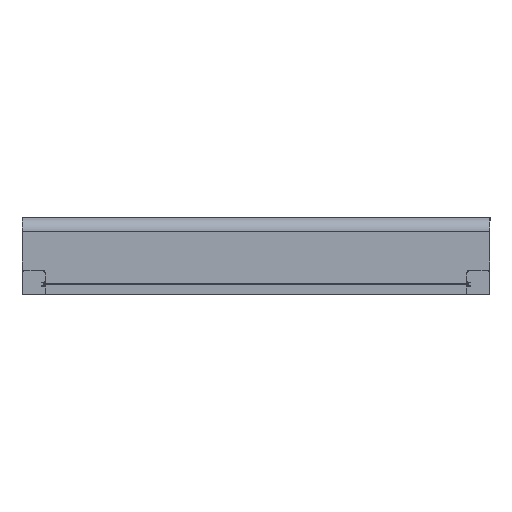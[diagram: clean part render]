
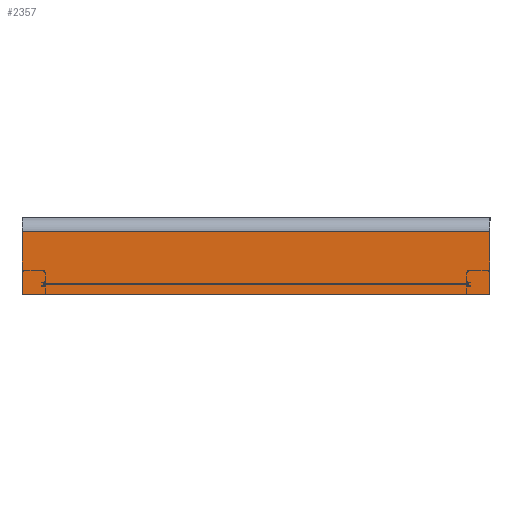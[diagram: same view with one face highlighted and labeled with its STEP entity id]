
A CAD part, front view. The second image highlights one B-rep face of the part: STEP entity #2357.
In plain terms, the highlighted planar face has unit normal (0, -1, 0).
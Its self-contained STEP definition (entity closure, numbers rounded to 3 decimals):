
#160 = CARTESIAN_POINT ( 'NONE',  ( 2500., 3000., 335. ) ) ;
#180 = EDGE_CURVE ( 'NONE', #3040, #1967, #665, .T. ) ;
#480 = VECTOR ( 'NONE', #1235, 1000. ) ;
#537 = FACE_OUTER_BOUND ( 'NONE', #1624, .T. ) ;
#665 = LINE ( 'NONE', #879, #1058 ) ;
#719 = VECTOR ( 'NONE', #3676, 1000. ) ;
#724 = CARTESIAN_POINT ( 'NONE',  ( 2500., 3000., 0. ) ) ;
#770 = PLANE ( 'NONE',  #3333 ) ;
#787 = DIRECTION ( 'NONE',  ( 0., 0., 1. ) ) ;
#879 = CARTESIAN_POINT ( 'NONE',  ( 2500., 3000., 0. ) ) ;
#912 = LINE ( 'NONE', #1486, #975 ) ;
#975 = VECTOR ( 'NONE', #1448, 1000. ) ;
#1058 = VECTOR ( 'NONE', #5126, 1000. ) ;
#1222 = CARTESIAN_POINT ( 'NONE',  ( 0., 3000., 335. ) ) ;
#1235 = DIRECTION ( 'NONE',  ( -1., 0., 0. ) ) ;
#1448 = DIRECTION ( 'NONE',  ( 0., 0., -1. ) ) ;
#1486 = CARTESIAN_POINT ( 'NONE',  ( 0., 3000., 0. ) ) ;
#1564 = VERTEX_POINT ( 'NONE', #1222 ) ;
#1624 = EDGE_LOOP ( 'NONE', ( #4749, #2271, #2238, #4714 ) ) ;
#1707 = CARTESIAN_POINT ( 'NONE',  ( 2500., 3000., 335. ) ) ;
#1854 = LINE ( 'NONE', #724, #719 ) ;
#1967 = VERTEX_POINT ( 'NONE', #3976 ) ;
#2238 = ORIENTED_EDGE ( 'NONE', *, *, #180, .F. ) ;
#2271 = ORIENTED_EDGE ( 'NONE', *, *, #4018, .F. ) ;
#2357 = ADVANCED_FACE ( 'NONE', ( #537 ), #770, .F. ) ;
#2702 = CARTESIAN_POINT ( 'NONE',  ( 0., 3000., 0. ) ) ;
#2963 = VERTEX_POINT ( 'NONE', #2702 ) ;
#3040 = VERTEX_POINT ( 'NONE', #160 ) ;
#3333 = AXIS2_PLACEMENT_3D ( 'NONE', #4637, #5075, #787 ) ;
#3581 = LINE ( 'NONE', #1707, #480 ) ;
#3676 = DIRECTION ( 'NONE',  ( -1., 0., 0. ) ) ;
#3976 = CARTESIAN_POINT ( 'NONE',  ( 2500., 3000., 0. ) ) ;
#4018 = EDGE_CURVE ( 'NONE', #1967, #2963, #1854, .T. ) ;
#4456 = EDGE_CURVE ( 'NONE', #1564, #2963, #912, .T. ) ;
#4637 = CARTESIAN_POINT ( 'NONE',  ( 2500., 3000., 0. ) ) ;
#4714 = ORIENTED_EDGE ( 'NONE', *, *, #5218, .T. ) ;
#4749 = ORIENTED_EDGE ( 'NONE', *, *, #4456, .T. ) ;
#5075 = DIRECTION ( 'NONE',  ( 0., 1., 0. ) ) ;
#5126 = DIRECTION ( 'NONE',  ( 0., 0., -1. ) ) ;
#5218 = EDGE_CURVE ( 'NONE', #3040, #1564, #3581, .T. ) ;
